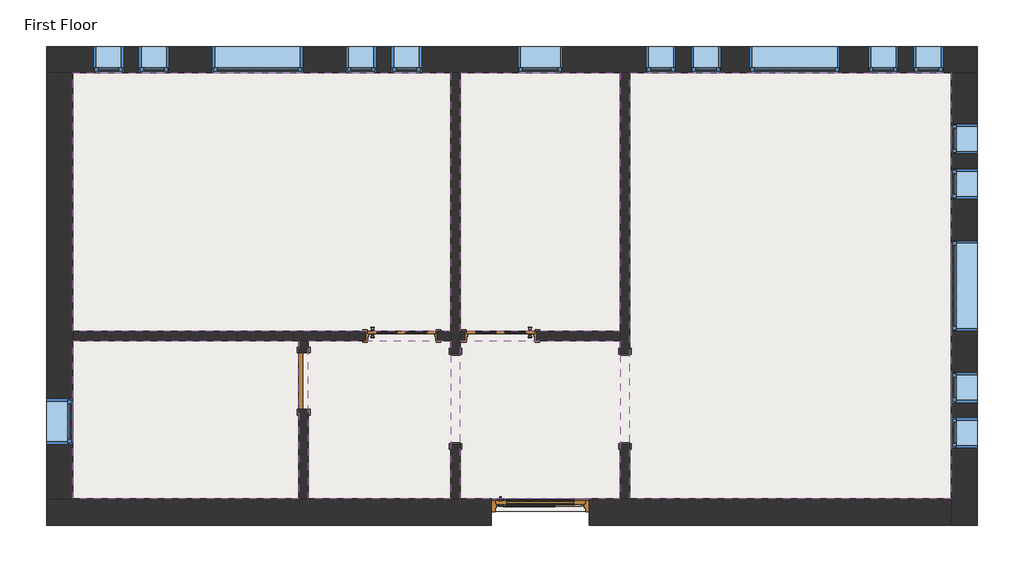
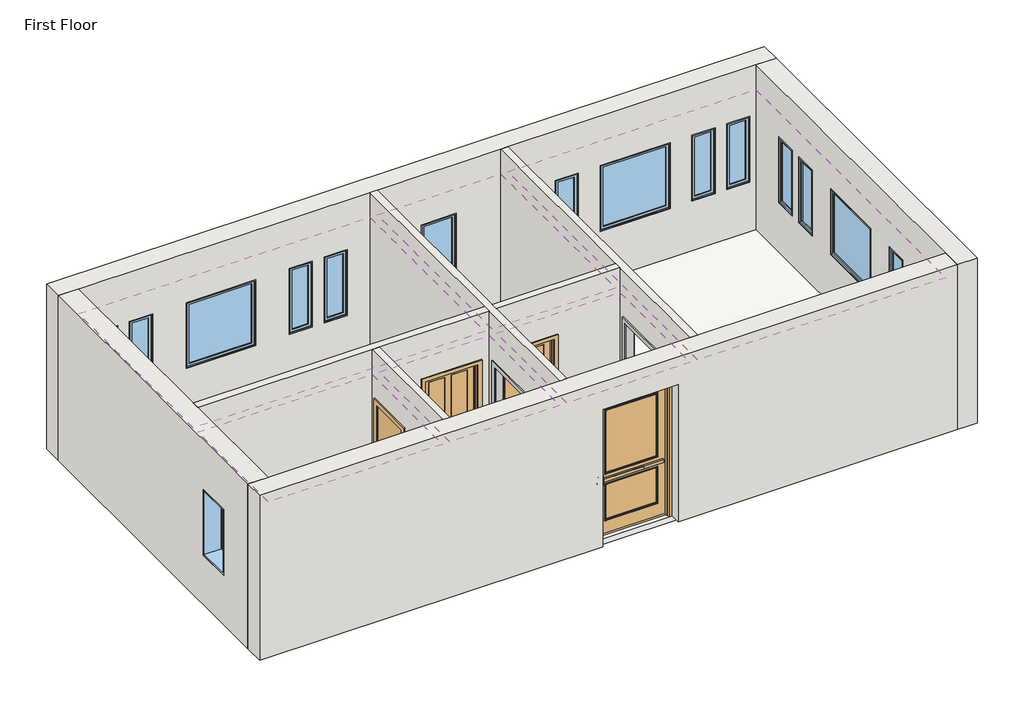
# One storey: 17 windows, 8 walls, 6 coverings, 4 doors, 2 proxies, 1 slab.
"""IFC4 building model written with IfcOpenShell, lengths in millimetres."""

from ifc_helpers import new_model, si_unit, frame, origin, place, context, project, spatial, polyline, outline, extrude, faceted_brep, transform, mapped, element, save
from components import proxy_f44482cc, door_c4539963, door_3a280f7b, door_48307b55, door_4d6c7550, window_da97879f, window_d61ef850, window_60baf983, window_6eb97611, window_d89bf842

model = new_model("IFC4")

# Units and contexts
model_context = context("Model", 3, world=origin())
ifc_project = project(units=[si_unit("LENGTHUNIT", "METRE", prefix="MILLI")], contexts=[model_context])

# Site, building, storey
site = spatial("IfcSite", under=ifc_project)
building = spatial("IfcBuilding", under=site)
storey = spatial("IfcBuildingStorey", under=building, Name="First Floor", Elevation=0.0)

# Proxies
placement = place(None, origin())
proxy_shape = proxy_f44482cc(model_context)
element("IfcBuildingElementProxy", 1, Name="Passage Opening-Cased : 48\" x 84\"", ObjectType="Passage Opening-Cased : 48\" x 84\"", at=placement, inside=storey, context=model_context, shape_type="MappedRepresentation", body=[
    mapped(proxy_shape, transform((-2321.5551, 2034.1116608, 0.0), x_axis=(0.0, 1.0, 0.0), y_axis=(-1.0, 0.0, 0.0), z_axis=(0.0, 0.0, 1.0))),
])
element("IfcBuildingElementProxy", 2, Name="Passage Opening-Cased : 48\" x 84\"", ObjectType="Passage Opening-Cased : 48\" x 84\"", at=placement, inside=storey, context=model_context, shape_type="MappedRepresentation", body=[
    mapped(proxy_shape, transform((-4607.5551, 2017.7343474, 0.0), x_axis=(0.0, -1.0, 0.0), y_axis=(1.0, 0.0, 0.0), z_axis=(0.0, 0.0, 1.0))),
])

# Coverings
element("IfcCovering", 3, ObjectType="GWB on Mtl. Stud", at=placement, inside=storey, context=model_context, shape_type="SweptSolid", body=[
    extrude(outline(polyline([(-9765.3426, 6421.7105041), (-4671.0551, 6421.7105041), (-4671.0551, 2938.7355041), (-9765.3426, 2938.7355041), (-9765.3426, 6421.7105041)])), frame((0.0, 0.0, 2590.8), z_axis=(0.0, 0.0, 1.0), x_axis=(1.0, 0.0, 0.0)), (0.0, 0.0, 1.0), 107.95),
])
element("IfcCovering", 4, ObjectType="GWB on Mtl. Stud", at=placement, inside=storey, context=model_context, shape_type="SweptSolid", body=[
    extrude(outline(polyline([(-4544.0551, 2938.7355041), (-4544.0551, 6421.7105041), (-2385.0551, 6421.7105041), (-2385.0551, 2938.7355041), (-4544.0551, 2938.7355041)])), frame((0.0, 0.0, 2590.8), z_axis=(0.0, 0.0, 1.0), x_axis=(1.0, 0.0, 0.0)), (0.0, 0.0, 1.0), 107.95),
])
element("IfcCovering", 5, ObjectType="GWB on Mtl. Stud", at=placement, inside=storey, context=model_context, shape_type="SweptSolid", body=[
    extrude(outline(polyline([(-2258.0551, 678.1355041), (-2258.0551, 6421.7105041), (2074.2324, 6421.7105041), (2074.2324, 678.1355041), (-2258.0551, 678.1355041)])), frame((0.0, 0.0, 2590.8), z_axis=(0.0, 0.0, 1.0), x_axis=(1.0, 0.0, 0.0)), (0.0, 0.0, 1.0), 107.95),
])
element("IfcCovering", 6, ObjectType="GWB on Mtl. Stud", at=placement, inside=storey, context=model_context, shape_type="SweptSolid", body=[
    extrude(outline(polyline([(-2385.0551, 678.1355041), (-4544.0551, 678.1355041), (-4544.0551, 2811.7355041), (-2385.0551, 2811.7355041), (-2385.0551, 678.1355041)])), frame((0.0, 0.0, 2590.8), z_axis=(0.0, 0.0, 1.0), x_axis=(1.0, 0.0, 0.0)), (0.0, 0.0, 1.0), 107.95),
])
element("IfcCovering", 7, ObjectType="GWB on Mtl. Stud", at=placement, inside=storey, context=model_context, shape_type="SweptSolid", body=[
    extrude(outline(polyline([(-4671.0551, 678.1355041), (-6590.3426, 678.1355041), (-6590.3426, 2811.7355041), (-4671.0551, 2811.7355041), (-4671.0551, 678.1355041)])), frame((0.0, 0.0, 2590.8), z_axis=(0.0, 0.0, 1.0), x_axis=(1.0, 0.0, 0.0)), (0.0, 0.0, 1.0), 107.95),
])
element("IfcCovering", 8, ObjectType="GWB on Mtl. Stud", at=placement, inside=storey, context=model_context, shape_type="SweptSolid", body=[
    extrude(outline(polyline([(-6717.3426, 2811.7355041), (-6717.3426, 678.1355041), (-9765.3426, 678.1355041), (-9765.3426, 2811.7355041), (-6717.3426, 2811.7355041)])), frame((0.0, 0.0, 2590.8), z_axis=(0.0, 0.0, 1.0), x_axis=(1.0, 0.0, 0.0)), (0.0, 0.0, 1.0), 107.95),
])

# Doors
door_shape = door_c4539963(model_context)
element("IfcDoor", 9, ObjectType="Door-Exterior-Single-Two_Lite : 48\" x 96\"", at=placement, inside=storey, context=model_context, shape_type="MappedRepresentation", body=[
    mapped(door_shape, transform((-3464.5551, 495.5730041, 0.0), x_axis=(1.0, 0.0, 0.0), y_axis=(0.0, 1.0, 0.0), z_axis=(0.0, 0.0, 1.0))),
])
door_2_shape = door_3a280f7b(model_context)
element("IfcDoor", 10, ObjectType="Door-Interior-Single-4_Panel-Wood : 36\" x 84\"", at=placement, inside=storey, context=model_context, shape_type="MappedRepresentation", body=[
    mapped(door_2_shape, transform((-3997.9551, 2878.4105041, 0.0), x_axis=(-1.0, 0.0, 0.0), y_axis=(0.0, -1.0, 0.0), z_axis=(0.0, 0.0, 1.0))),
])
door_3_shape = door_48307b55(model_context)
element("IfcDoor", 11, ObjectType="Door-Interior-Single-4_Panel-Wood : 36\" x 84\"", at=placement, inside=storey, context=model_context, shape_type="MappedRepresentation", body=[
    mapped(door_3_shape, transform((-5333.0426, 2878.4105041, 0.0), x_axis=(1.0, 0.0, 0.0), y_axis=(0.0, 1.0, 0.0), z_axis=(0.0, 0.0, 1.0))),
])
door_4_shape = door_4d6c7550(model_context)
element("IfcDoor", 12, ObjectType="Single-Flush : 30\" x 84\"", at=placement, inside=storey, context=model_context, shape_type="MappedRepresentation", body=[
    mapped(door_4_shape, transform((-6653.8426, 2265.6355041, 0.0), x_axis=(0.0, 1.0, 0.0), y_axis=(-1.0, 0.0, 0.0), z_axis=(0.0, 0.0, 1.0))),
])

# Slab
element("IfcSlab", 13, ObjectType="LW Concrete on Metal Deck", at=placement, inside=storey, context=model_context, shape_type="SweptSolid", body=[
    extrude(outline(polyline([(2239.3324, 6586.8105041), (2239.3324, 513.0355041), (-9930.4426, 513.0355041), (-9930.4426, 6586.8105041), (2239.3324, 6586.8105041)])), frame((0.0, 0.0, -104.775), z_axis=(0.0, 0.0, 1.0), x_axis=(1.0, 0.0, 0.0)), (0.0, 0.0, 1.0), 104.775),
])

# Walls
element("IfcWall", 14, ObjectType="Exterior - Brick on Mtl. Stud", at=placement, inside=storey, context=model_context, shape_type="Brep", body=[
    faceted_brep([(-10117.7676, 6421.7105041, 0.0), (-9930.4426, 6421.7105041, 0.0), (-9765.3426, 6421.7105041, 0.0), (-4671.0551, 6421.7105041, 0.0), (-4544.0551, 6421.7105041, 0.0), (-2385.0551, 6421.7105041, 0.0), (-2258.0551, 6421.7105041, 0.0), (2074.2324, 6421.7105041, 0.0), (2239.3324, 6421.7105041, 0.0), (2426.6574, 6421.7105041, 0.0), (2426.6574, 6421.7105041, 3048.0), (2074.2324, 6421.7105041, 3048.0), (-2258.0551, 6421.7105041, 3048.0), (-2385.0551, 6421.7105041, 3048.0), (-4544.0551, 6421.7105041, 3048.0), (-4671.0551, 6421.7105041, 3048.0), (-9765.3426, 6421.7105041, 3048.0), (-10117.7676, 6421.7105041, 3048.0), (-3769.3551, 6421.7105041, 2133.6), (-3159.7551, 6421.7105041, 2133.6), (-3159.7551, 6421.7105041, 914.4), (-3769.3551, 6421.7105041, 914.4), (-7884.1551, 6421.7105041, 2133.6), (-6664.9551, 6421.7105041, 2133.6), (-6664.9551, 6421.7105041, 914.4), (-7884.1551, 6421.7105041, 914.4), (-645.1551, 6421.7105041, 2133.6), (574.0449, 6421.7105041, 2133.6), (574.0449, 6421.7105041, 914.4), (-645.1551, 6421.7105041, 914.4), (-9484.3551, 6421.7105041, 2133.6), (-9077.9551, 6421.7105041, 2133.6), (-9077.9551, 6421.7105041, 914.4), (-9484.3551, 6421.7105041, 914.4), (-8874.7551, 6421.7105041, 2133.6), (-8468.3551, 6421.7105041, 2133.6), (-8468.3551, 6421.7105041, 914.4), (-8874.7551, 6421.7105041, 914.4), (-5674.3551, 6421.7105041, 2133.6), (-5674.3551, 6421.7105041, 914.4), (-6080.7551, 6421.7105041, 914.4), (-6080.7551, 6421.7105041, 2133.6), (-5064.7551, 6421.7105041, 2133.6), (-5064.7551, 6421.7105041, 914.4), (-5471.1551, 6421.7105041, 914.4), (-5471.1551, 6421.7105041, 2133.6), (-1432.5551, 6421.7105041, 2133.6), (-1026.1551, 6421.7105041, 2133.6), (-1026.1551, 6421.7105041, 914.4), (-1432.5551, 6421.7105041, 914.4), (-2042.1551, 6421.7105041, 2133.6), (-1635.7551, 6421.7105041, 2133.6), (-1635.7551, 6421.7105041, 914.4), (-2042.1551, 6421.7105041, 914.4), (1361.4449, 6421.7105041, 2133.6), (1361.4449, 6421.7105041, 914.4), (955.0449, 6421.7105041, 914.4), (955.0449, 6421.7105041, 2133.6), (1971.0449, 6421.7105041, 2133.6), (1971.0449, 6421.7105041, 914.4), (1564.6449, 6421.7105041, 914.4), (1564.6449, 6421.7105041, 2133.6), (-10117.7676, 6774.1355041, 0.0), (-10117.7676, 6774.1355041, 3048.0), (2426.6574, 6774.1355041, 3048.0), (2426.6574, 6774.1355041, 0.0), (2239.3324, 6774.1355041, 0.0), (-9930.4426, 6774.1355041, 0.0), (-3769.3551, 6774.1355041, 2133.6), (-3769.3551, 6774.1355041, 914.4), (-3159.7551, 6774.1355041, 914.4), (-3159.7551, 6774.1355041, 2133.6), (-7884.1551, 6774.1355041, 2133.6), (-7884.1551, 6774.1355041, 914.4), (-6664.9551, 6774.1355041, 914.4), (-6664.9551, 6774.1355041, 2133.6), (-645.1551, 6774.1355041, 2133.6), (-645.1551, 6774.1355041, 914.4), (574.0449, 6774.1355041, 914.4), (574.0449, 6774.1355041, 2133.6), (-9484.3551, 6774.1355041, 2133.6), (-9484.3551, 6774.1355041, 914.4), (-9077.9551, 6774.1355041, 914.4), (-9077.9551, 6774.1355041, 2133.6), (-8874.7551, 6774.1355041, 2133.6), (-8874.7551, 6774.1355041, 914.4), (-8468.3551, 6774.1355041, 914.4), (-8468.3551, 6774.1355041, 2133.6), (-5674.3551, 6774.1355041, 2133.6), (-6080.7551, 6774.1355041, 2133.6), (-6080.7551, 6774.1355041, 914.4), (-5674.3551, 6774.1355041, 914.4), (-5064.7551, 6774.1355041, 2133.6), (-5471.1551, 6774.1355041, 2133.6), (-5471.1551, 6774.1355041, 914.4), (-5064.7551, 6774.1355041, 914.4), (-1432.5551, 6774.1355041, 2133.6), (-1432.5551, 6774.1355041, 914.4), (-1026.1551, 6774.1355041, 914.4), (-1026.1551, 6774.1355041, 2133.6), (-2042.1551, 6774.1355041, 2133.6), (-2042.1551, 6774.1355041, 914.4), (-1635.7551, 6774.1355041, 914.4), (-1635.7551, 6774.1355041, 2133.6), (1361.4449, 6774.1355041, 2133.6), (955.0449, 6774.1355041, 2133.6), (955.0449, 6774.1355041, 914.4), (1361.4449, 6774.1355041, 914.4), (1971.0449, 6774.1355041, 2133.6), (1564.6449, 6774.1355041, 2133.6), (1564.6449, 6774.1355041, 914.4), (1971.0449, 6774.1355041, 914.4), (2426.6574, 6586.8105041, 0.0), (-10117.7676, 6586.8105041, 0.0), (-9930.4426, 6586.8105041, 0.0), (2239.3324, 6586.8105041, 0.0)], [[[0, 1, 2, 3, 4, 5, 6, 7, 8, 9, 10, 11, 12, 13, 14, 15, 16, 17], [18, 19, 20, 21], [22, 23, 24, 25], [26, 27, 28, 29], [30, 31, 32, 33], [34, 35, 36, 37], [38, 39, 40, 41], [42, 43, 44, 45], [46, 47, 48, 49], [50, 51, 52, 53], [54, 55, 56, 57], [58, 59, 60, 61]], [[62, 63, 64, 65, 66, 67], [68, 69, 70, 71], [72, 73, 74, 75], [76, 77, 78, 79], [80, 81, 82, 83], [84, 85, 86, 87], [88, 89, 90, 91], [92, 93, 94, 95], [96, 97, 98, 99], [100, 101, 102, 103], [104, 105, 106, 107], [108, 109, 110, 111]], [[17, 16, 15, 14, 13, 12, 11, 10, 64, 63]], [[10, 9, 112, 65, 64]], [[0, 17, 63, 62, 113]], [[69, 68, 18, 21]], [[70, 69, 21, 20]], [[71, 70, 20, 19]], [[68, 71, 19, 18]], [[73, 72, 22, 25]], [[74, 73, 25, 24]], [[75, 74, 24, 23]], [[72, 75, 23, 22]], [[77, 76, 26, 29]], [[78, 77, 29, 28]], [[79, 78, 28, 27]], [[76, 79, 27, 26]], [[81, 80, 30, 33]], [[82, 81, 33, 32]], [[83, 82, 32, 31]], [[80, 83, 31, 30]], [[85, 84, 34, 37]], [[86, 85, 37, 36]], [[87, 86, 36, 35]], [[84, 87, 35, 34]], [[39, 38, 88, 91]], [[40, 39, 91, 90]], [[41, 40, 90, 89]], [[38, 41, 89, 88]], [[43, 42, 92, 95]], [[44, 43, 95, 94]], [[45, 44, 94, 93]], [[42, 45, 93, 92]], [[97, 96, 46, 49]], [[98, 97, 49, 48]], [[99, 98, 48, 47]], [[96, 99, 47, 46]], [[101, 100, 50, 53]], [[102, 101, 53, 52]], [[103, 102, 52, 51]], [[100, 103, 51, 50]], [[55, 54, 104, 107]], [[56, 55, 107, 106]], [[57, 56, 106, 105]], [[54, 57, 105, 104]], [[59, 58, 108, 111]], [[60, 59, 111, 110]], [[61, 60, 110, 109]], [[58, 61, 109, 108]], [[1, 0, 113, 114]], [[113, 62, 67, 114]], [[9, 8, 115, 112]], [[67, 66, 115, 114]], [[66, 65, 112, 115]], [[8, 7, 6, 5, 4, 3, 2, 1, 114, 115]]]),
])
element("IfcWall", 15, ObjectType="Exterior - Brick on Mtl. Stud", at=placement, inside=storey, context=model_context, shape_type="Brep", body=[
    faceted_brep([(2074.2324, 6421.7105041, 0.0), (2074.2324, 678.1355041, 0.0), (2074.2324, 513.0355041, 0.0), (2074.2324, 325.7105041, 0.0), (2074.2324, 325.7105041, 3048.0), (2074.2324, 678.1355041, 3048.0), (2074.2324, 6421.7105041, 3048.0), (2074.2324, 2940.3230041, 2133.6), (2074.2324, 2940.3230041, 914.4), (2074.2324, 4159.5230041, 914.4), (2074.2324, 4159.5230041, 2133.6), (2074.2324, 5124.7230041, 2133.6), (2074.2324, 4718.3230041, 2133.6), (2074.2324, 4718.3230041, 914.4), (2074.2324, 5124.7230041, 914.4), (2074.2324, 5734.3230041, 2133.6), (2074.2324, 5327.9230041, 2133.6), (2074.2324, 5327.9230041, 914.4), (2074.2324, 5734.3230041, 914.4), (2074.2324, 1975.1230041, 2133.6), (2074.2324, 1975.1230041, 914.4), (2074.2324, 2381.5230041, 914.4), (2074.2324, 2381.5230041, 2133.6), (2074.2324, 1365.5230041, 2133.6), (2074.2324, 1365.5230041, 914.4), (2074.2324, 1771.9230041, 914.4), (2074.2324, 1771.9230041, 2133.6), (2426.6574, 6421.7105041, 0.0), (2426.6574, 6421.7105041, 3048.0), (2426.6574, 325.7105041, 3048.0), (2426.6574, 325.7105041, 0.0), (2426.6574, 513.0355041, 0.0), (2426.6574, 2940.3230041, 2133.6), (2426.6574, 4159.5230041, 2133.6), (2426.6574, 4159.5230041, 914.4), (2426.6574, 2940.3230041, 914.4), (2426.6574, 5124.7230041, 2133.6), (2426.6574, 5124.7230041, 914.4), (2426.6574, 4718.3230041, 914.4), (2426.6574, 4718.3230041, 2133.6), (2426.6574, 5734.3230041, 2133.6), (2426.6574, 5734.3230041, 914.4), (2426.6574, 5327.9230041, 914.4), (2426.6574, 5327.9230041, 2133.6), (2426.6574, 1975.1230041, 2133.6), (2426.6574, 2381.5230041, 2133.6), (2426.6574, 2381.5230041, 914.4), (2426.6574, 1975.1230041, 914.4), (2426.6574, 1365.5230041, 2133.6), (2426.6574, 1771.9230041, 2133.6), (2426.6574, 1771.9230041, 914.4), (2426.6574, 1365.5230041, 914.4), (2239.3324, 6421.7105041, 0.0), (2239.3324, 325.7105041, 0.0), (2239.3324, 513.0355041, 0.0)], [[[0, 1, 2, 3, 4, 5, 6], [7, 8, 9, 10], [11, 12, 13, 14], [15, 16, 17, 18], [19, 20, 21, 22], [23, 24, 25, 26]], [[27, 28, 29, 30, 31], [32, 33, 34, 35], [36, 37, 38, 39], [40, 41, 42, 43], [44, 45, 46, 47], [48, 49, 50, 51]], [[6, 5, 4, 29, 28]], [[0, 6, 28, 27, 52]], [[4, 3, 53, 30, 29]], [[8, 7, 32, 35]], [[9, 8, 35, 34]], [[10, 9, 34, 33]], [[7, 10, 33, 32]], [[37, 36, 11, 14]], [[38, 37, 14, 13]], [[39, 38, 13, 12]], [[36, 39, 12, 11]], [[41, 40, 15, 18]], [[42, 41, 18, 17]], [[43, 42, 17, 16]], [[40, 43, 16, 15]], [[20, 19, 44, 47]], [[21, 20, 47, 46]], [[22, 21, 46, 45]], [[19, 22, 45, 44]], [[24, 23, 48, 51]], [[25, 24, 51, 50]], [[26, 25, 50, 49]], [[23, 26, 49, 48]], [[52, 27, 31, 54]], [[3, 2, 54, 53]], [[54, 31, 30, 53]], [[2, 1, 0, 52, 54]]]),
])
element("IfcWall", 16, ObjectType="Exterior - Brick on Mtl. Stud", at=placement, inside=storey, context=model_context, shape_type="Brep", body=[
    faceted_brep([(-10117.7676, 678.1355041, 3048.0), (-9765.3426, 678.1355041, 3048.0), (-6717.3426, 678.1355041, 3048.0), (-6590.3426, 678.1355041, 3048.0), (-4671.0551, 678.1355041, 3048.0), (-4544.0551, 678.1355041, 3048.0), (-2385.0551, 678.1355041, 3048.0), (-2258.0551, 678.1355041, 3048.0), (2074.2324, 678.1355041, 3048.0), (2074.2324, 678.1355041, 0.0), (-2258.0551, 678.1355041, 0.0), (-2385.0551, 678.1355041, 0.0), (-2804.1551, 678.1355041, 0.0), (-2804.1551, 678.1355041, 2540.0), (-4124.9551, 678.1355041, 2540.0), (-4124.9551, 678.1355041, 0.0), (-4544.0551, 678.1355041, 0.0), (-4671.0551, 678.1355041, 0.0), (-6590.3426, 678.1355041, 0.0), (-6717.3426, 678.1355041, 0.0), (-9765.3426, 678.1355041, 0.0), (-10117.7676, 678.1355041, 0.0), (2074.2324, 325.7105041, 3048.0), (-10117.7676, 325.7105041, 3048.0), (-10117.7676, 325.7105041, 0.0), (-4124.9551, 325.7105041, 0.0), (-4124.9551, 325.7105041, 2540.0), (-2804.1551, 325.7105041, 2540.0), (-2804.1551, 325.7105041, 0.0), (2074.2324, 325.7105041, 0.0)], [[[0, 1, 2, 3, 4, 5, 6, 7, 8, 9, 10, 11, 12, 13, 14, 15, 16, 17, 18, 19, 20, 21]], [[22, 23, 24, 25, 26, 27, 28, 29]], [[9, 29, 28, 12, 11, 10]], [[24, 21, 20, 19, 18, 17, 16, 15, 25]], [[8, 7, 6, 5, 4, 3, 2, 1, 0, 23, 22]], [[9, 8, 22, 29]], [[0, 21, 24, 23]], [[27, 13, 12, 28]], [[13, 27, 26, 14]], [[14, 26, 25, 15]]]),
])
element("IfcWall", 17, ObjectType="Exterior - Brick on Mtl. Stud", at=placement, inside=storey, context=model_context, shape_type="Brep", body=[
    faceted_brep([(-9765.3426, 678.1355041, 0.0), (-9765.3426, 2811.7355041, 0.0), (-9765.3426, 2938.7355041, 0.0), (-9765.3426, 6421.7105041, 0.0), (-9765.3426, 6421.7105041, 3048.0), (-9765.3426, 2938.7355041, 3048.0), (-9765.3426, 2811.7355041, 3048.0), (-9765.3426, 678.1355041, 3048.0), (-9765.3426, 1416.3230041, 2133.6), (-9765.3426, 2025.9230041, 2133.6), (-9765.3426, 2025.9230041, 914.4), (-9765.3426, 1416.3230041, 914.4), (-10117.7676, 678.1355041, 0.0), (-10117.7676, 678.1355041, 3048.0), (-10117.7676, 6421.7105041, 3048.0), (-10117.7676, 6421.7105041, 0.0), (-10117.7676, 1416.3230041, 2133.6), (-10117.7676, 1416.3230041, 914.4), (-10117.7676, 2025.9230041, 914.4), (-10117.7676, 2025.9230041, 2133.6), (-9930.4426, 678.1355041, 0.0), (-9930.4426, 6421.7105041, 0.0)], [[[0, 1, 2, 3, 4, 5, 6, 7], [8, 9, 10, 11]], [[12, 13, 14, 15], [16, 17, 18, 19]], [[7, 6, 5, 4, 14, 13]], [[0, 7, 13, 12, 20]], [[4, 3, 21, 15, 14]], [[17, 16, 8, 11]], [[18, 17, 11, 10]], [[19, 18, 10, 9]], [[16, 19, 9, 8]], [[20, 12, 15, 21]], [[3, 2, 1, 0, 20, 21]]]),
])
element("IfcWall", 18, ObjectType="Interior - 5\" Partition (2-hr)", at=placement, inside=storey, context=model_context, shape_type="Brep", body=[
    faceted_brep([(-2385.0551, 6421.7105041, 0.0), (-2385.0551, 2938.7355041, 0.0), (-2385.0551, 2811.7355041, 0.0), (-2385.0551, 2635.5230041, 0.0), (-2385.0551, 2635.5230041, 2133.6), (-2385.0551, 1416.3230041, 2133.6), (-2385.0551, 1416.3230041, 0.0), (-2385.0551, 678.1355041, 0.0), (-2385.0551, 678.1355041, 3048.0), (-2385.0551, 2811.7355041, 3048.0), (-2385.0551, 2938.7355041, 3048.0), (-2385.0551, 6421.7105041, 3048.0), (-2258.0551, 2635.5230041, 2133.6), (-2258.0551, 2635.5230041, 0.0), (-2258.0551, 6421.7105041, 0.0), (-2258.0551, 6421.7105041, 3048.0), (-2258.0551, 678.1355041, 3048.0), (-2258.0551, 678.1355041, 0.0), (-2258.0551, 1416.3230041, 0.0), (-2258.0551, 1416.3230041, 2133.6)], [[[0, 1, 2, 3, 4, 5, 6, 7, 8, 9, 10, 11]], [[12, 13, 14, 15, 16, 17, 18, 19]], [[18, 17, 7, 6]], [[14, 13, 3, 2, 1, 0]], [[11, 10, 9, 8, 16, 15]], [[0, 11, 15, 14]], [[8, 7, 17, 16]], [[6, 5, 19, 18]], [[4, 3, 13, 12]], [[5, 4, 12, 19]]]),
])
element("IfcWall", 19, ObjectType="Interior - 5\" Partition (2-hr)", at=placement, inside=storey, context=model_context, shape_type="Brep", body=[
    faceted_brep([(-4671.0551, 1416.3230041, 2133.6), (-4671.0551, 1416.3230041, 0.0), (-4671.0551, 678.1355041, 0.0), (-4671.0551, 678.1355041, 3048.0), (-4671.0551, 2811.7355041, 3048.0), (-4671.0551, 2938.7355041, 3048.0), (-4671.0551, 6421.7105041, 3048.0), (-4671.0551, 6421.7105041, 0.0), (-4671.0551, 2938.7355041, 0.0), (-4671.0551, 2811.7355041, 0.0), (-4671.0551, 2635.5230041, 0.0), (-4671.0551, 2635.5230041, 2133.6), (-4544.0551, 678.1355041, 0.0), (-4544.0551, 1416.3230041, 0.0), (-4544.0551, 1416.3230041, 2133.6), (-4544.0551, 2635.5230041, 2133.6), (-4544.0551, 2635.5230041, 0.0), (-4544.0551, 2811.7355041, 0.0), (-4544.0551, 2938.7355041, 0.0), (-4544.0551, 6421.7105041, 0.0), (-4544.0551, 6421.7105041, 3048.0), (-4544.0551, 2938.7355041, 3048.0), (-4544.0551, 2811.7355041, 3048.0), (-4544.0551, 678.1355041, 3048.0)], [[[0, 1, 2, 3, 4, 5, 6, 7, 8, 9, 10, 11]], [[12, 13, 14, 15, 16, 17, 18, 19, 20, 21, 22, 23]], [[2, 1, 13, 12]], [[10, 9, 8, 7, 19, 18, 17, 16]], [[6, 5, 4, 3, 23, 22, 21, 20]], [[7, 6, 20, 19]], [[3, 2, 12, 23]], [[16, 15, 11, 10]], [[14, 13, 1, 0]], [[15, 14, 0, 11]]]),
])
element("IfcWall", 20, ObjectType="Interior - 5\" Partition (2-hr)", at=placement, inside=storey, context=model_context, shape_type="Brep", body=[
    faceted_brep([(-9765.3426, 2811.7355041, 3048.0), (-9765.3426, 2811.7355041, 0.0), (-6717.3426, 2811.7355041, 0.0), (-6590.3426, 2811.7355041, 0.0), (-5815.6426, 2811.7355041, 0.0), (-5815.6426, 2811.7355041, 2159.0), (-4850.4426, 2811.7355041, 2159.0), (-4850.4426, 2811.7355041, 0.0), (-4671.0551, 2811.7355041, 0.0), (-4671.0551, 2811.7355041, 3048.0), (-6590.3426, 2811.7355041, 3048.0), (-6717.3426, 2811.7355041, 3048.0), (-9765.3426, 2938.7355041, 0.0), (-9765.3426, 2938.7355041, 3048.0), (-4671.0551, 2938.7355041, 3048.0), (-4671.0551, 2938.7355041, 0.0), (-4850.4426, 2938.7355041, 0.0), (-4850.4426, 2938.7355041, 2159.0), (-5815.6426, 2938.7355041, 2159.0), (-5815.6426, 2938.7355041, 0.0)], [[[0, 1, 2, 3, 4, 5, 6, 7, 8, 9, 10, 11]], [[12, 13, 14, 15, 16, 17, 18, 19]], [[1, 12, 19, 4, 3, 2]], [[7, 16, 15, 8]], [[13, 0, 11, 10, 9, 14]], [[1, 0, 13, 12]], [[9, 8, 15, 14]], [[6, 17, 16, 7]], [[17, 6, 5, 18]], [[18, 5, 4, 19]]]),
    faceted_brep([(-2385.0551, 2811.7355041, 0.0), (-2385.0551, 2811.7355041, 3048.0), (-4544.0551, 2811.7355041, 3048.0), (-4544.0551, 2811.7355041, 0.0), (-4480.5551, 2811.7355041, 0.0), (-4480.5551, 2811.7355041, 2159.0), (-3515.3551, 2811.7355041, 2159.0), (-3515.3551, 2811.7355041, 0.0), (-2385.0551, 2938.7355041, 3048.0), (-2385.0551, 2938.7355041, 0.0), (-3515.3551, 2938.7355041, 0.0), (-3515.3551, 2938.7355041, 2159.0), (-4480.5551, 2938.7355041, 2159.0), (-4480.5551, 2938.7355041, 0.0), (-4544.0551, 2938.7355041, 0.0), (-4544.0551, 2938.7355041, 3048.0)], [[[0, 1, 2, 3, 4, 5, 6, 7]], [[8, 9, 10, 11, 12, 13, 14, 15]], [[9, 0, 7, 10]], [[13, 4, 3, 14]], [[1, 8, 15, 2]], [[3, 2, 15, 14]], [[1, 0, 9, 8]], [[5, 4, 13, 12]], [[6, 5, 12, 11]], [[7, 6, 11, 10]]]),
])
element("IfcWall", 21, ObjectType="Interior - 5\" Partition (2-hr)", at=placement, inside=storey, context=model_context, shape_type="SweptSolid", body=[
    extrude(outline(polyline([(2811.7355041, 0.0), (2646.6355041, 0.0), (2646.6355041, 2133.6), (1884.6355041, 2133.6), (1884.6355041, 0.0), (678.1355041, 0.0), (678.1355041, 3048.0), (2811.7355041, 3048.0), (2811.7355041, 0.0)])), frame((-6717.3426, 0.0, 0.0), z_axis=(1.0, 0.0, 0.0), x_axis=(0.0, 1.0, 0.0)), (0.0, 0.0, 1.0), 127.0),
])

# Windows
window_shape = window_da97879f(model_context)
element("IfcWindow", 22, ObjectType="Fixed : 16\" x 48\"", at=placement, inside=storey, context=model_context, shape_type="MappedRepresentation", body=[
    mapped(window_shape, transform((-9319.2551, 6597.9230041, 0.0), x_axis=(-1.0, 0.0, 0.0), y_axis=(0.0, -1.0, 0.0), z_axis=(0.0, 0.0, 1.0))),
])
element("IfcWindow", 23, ObjectType="Fixed : 16\" x 48\"", at=placement, inside=storey, context=model_context, shape_type="MappedRepresentation", body=[
    mapped(window_shape, transform((-8709.6551, 6597.9230041, 0.0), x_axis=(-1.0, 0.0, 0.0), y_axis=(0.0, -1.0, 0.0), z_axis=(0.0, 0.0, 1.0))),
])
element("IfcWindow", 24, ObjectType="Fixed : 16\" x 48\"", at=placement, inside=storey, context=model_context, shape_type="MappedRepresentation", body=[
    mapped(window_shape, transform((-1877.0551, 6597.9230041, 0.0), x_axis=(-1.0, 0.0, 0.0), y_axis=(0.0, -1.0, 0.0), z_axis=(0.0, 0.0, 1.0))),
])
element("IfcWindow", 25, ObjectType="Fixed : 16\" x 48\"", at=placement, inside=storey, context=model_context, shape_type="MappedRepresentation", body=[
    mapped(window_shape, transform((-1267.4551, 6597.9230041, 0.0), x_axis=(-1.0, 0.0, 0.0), y_axis=(0.0, -1.0, 0.0), z_axis=(0.0, 0.0, 1.0))),
])
element("IfcWindow", 26, ObjectType="Fixed : 16\" x 48\"", at=placement, inside=storey, context=model_context, shape_type="MappedRepresentation", body=[
    mapped(window_shape, transform((2250.4449, 5569.2230041, 0.0), x_axis=(0.0, 1.0, 0.0), y_axis=(-1.0, 0.0, 0.0), z_axis=(0.0, 0.0, 1.0))),
])
element("IfcWindow", 27, ObjectType="Fixed : 16\" x 48\"", at=placement, inside=storey, context=model_context, shape_type="MappedRepresentation", body=[
    mapped(window_shape, transform((2250.4449, 4959.6230041, 0.0), x_axis=(0.0, 1.0, 0.0), y_axis=(-1.0, 0.0, 0.0), z_axis=(0.0, 0.0, 1.0))),
])
window_2_shape = window_d61ef850(model_context)
element("IfcWindow", 28, ObjectType="Fixed : 16\" x 48\"", at=placement, inside=storey, context=model_context, shape_type="MappedRepresentation", body=[
    mapped(window_2_shape, transform((-5229.8551, 6597.9230041, 0.0), x_axis=(1.0, 0.0, 0.0), y_axis=(0.0, 1.0, 0.0), z_axis=(0.0, 0.0, 1.0))),
])
element("IfcWindow", 29, ObjectType="Fixed : 16\" x 48\"", at=placement, inside=storey, context=model_context, shape_type="MappedRepresentation", body=[
    mapped(window_2_shape, transform((-5839.4551, 6597.9230041, 0.0), x_axis=(1.0, 0.0, 0.0), y_axis=(0.0, 1.0, 0.0), z_axis=(0.0, 0.0, 1.0))),
])
element("IfcWindow", 30, ObjectType="Fixed : 16\" x 48\"", at=placement, inside=storey, context=model_context, shape_type="MappedRepresentation", body=[
    mapped(window_2_shape, transform((1805.9449, 6597.9230041, 0.0), x_axis=(1.0, 0.0, 0.0), y_axis=(0.0, 1.0, 0.0), z_axis=(0.0, 0.0, 1.0))),
])
element("IfcWindow", 31, ObjectType="Fixed : 16\" x 48\"", at=placement, inside=storey, context=model_context, shape_type="MappedRepresentation", body=[
    mapped(window_2_shape, transform((1196.3449, 6597.9230041, 0.0), x_axis=(1.0, 0.0, 0.0), y_axis=(0.0, 1.0, 0.0), z_axis=(0.0, 0.0, 1.0))),
])
element("IfcWindow", 32, ObjectType="Fixed : 16\" x 48\"", at=placement, inside=storey, context=model_context, shape_type="MappedRepresentation", body=[
    mapped(window_2_shape, transform((2250.4449, 1530.6230041, 0.0), x_axis=(0.0, -1.0, 0.0), y_axis=(1.0, 0.0, 0.0), z_axis=(0.0, 0.0, 1.0))),
])
element("IfcWindow", 33, ObjectType="Fixed : 16\" x 48\"", at=placement, inside=storey, context=model_context, shape_type="MappedRepresentation", body=[
    mapped(window_2_shape, transform((2250.4449, 2140.2230041, 0.0), x_axis=(0.0, -1.0, 0.0), y_axis=(1.0, 0.0, 0.0), z_axis=(0.0, 0.0, 1.0))),
])
window_3_shape = window_60baf983(model_context)
element("IfcWindow", 34, ObjectType="Fixed : 24\" x 48\"", at=placement, inside=storey, context=model_context, shape_type="MappedRepresentation", body=[
    mapped(window_3_shape, transform((-3502.6551, 6597.9230041, 0.0), x_axis=(-1.0, 0.0, 0.0), y_axis=(0.0, -1.0, 0.0), z_axis=(0.0, 0.0, 1.0))),
])
element("IfcWindow", 35, ObjectType="Fixed : 24\" x 48\"", at=placement, inside=storey, context=model_context, shape_type="MappedRepresentation", body=[
    mapped(window_3_shape, transform((-9941.5551, 1683.0230041, 0.0), x_axis=(0.0, -1.0, 0.0), y_axis=(1.0, 0.0, 0.0), z_axis=(0.0, 0.0, 1.0))),
])
window_4_shape = window_6eb97611(model_context)
element("IfcWindow", 36, ObjectType="Fixed : 48\" x 48\"", at=placement, inside=storey, context=model_context, shape_type="MappedRepresentation", body=[
    mapped(window_4_shape, transform((-7312.6551, 6597.9230041, 0.0), x_axis=(-1.0, 0.0, 0.0), y_axis=(0.0, -1.0, 0.0), z_axis=(0.0, 0.0, 1.0))),
])
element("IfcWindow", 37, ObjectType="Fixed : 48\" x 48\"", at=placement, inside=storey, context=model_context, shape_type="MappedRepresentation", body=[
    mapped(window_4_shape, transform((-73.6551, 6597.9230041, 0.0), x_axis=(-1.0, 0.0, 0.0), y_axis=(0.0, -1.0, 0.0), z_axis=(0.0, 0.0, 1.0))),
])
window_5_shape = window_d89bf842(model_context)
element("IfcWindow", 38, ObjectType="Fixed : 48\" x 48\"", at=placement, inside=storey, context=model_context, shape_type="MappedRepresentation", body=[
    mapped(window_5_shape, transform((2250.4449, 3511.8230041, 0.0), x_axis=(0.0, -1.0, 0.0), y_axis=(1.0, 0.0, 0.0), z_axis=(0.0, 0.0, 1.0))),
])

save(model, "model.ifc")
